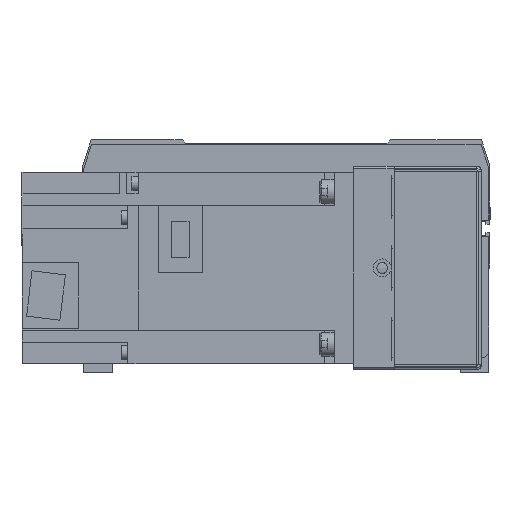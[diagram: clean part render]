
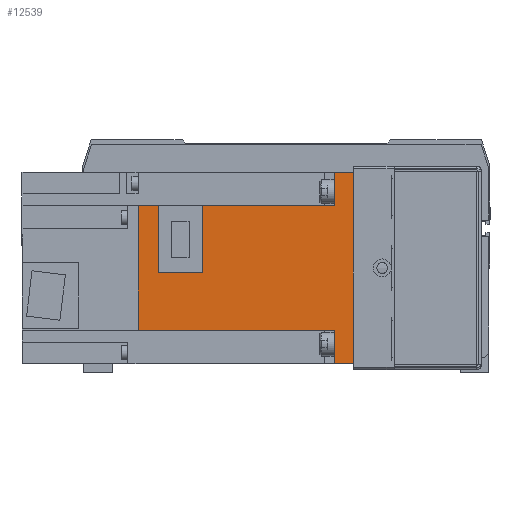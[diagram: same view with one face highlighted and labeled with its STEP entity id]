
A CAD part, front view. The second image highlights one B-rep face of the part: STEP entity #12539.
In plain terms, the highlighted planar face has unit normal (0, -1, 0) as drawn and (1, 0, 0) by its records, which use the part's own axes.
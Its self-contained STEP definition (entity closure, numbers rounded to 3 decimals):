
#831 = DIRECTION ( 'NONE',  ( 0., 1., 0. ) ) ;
#1056 = DIRECTION ( 'NONE',  ( 0., 0., -1. ) ) ;
#1304 = DIRECTION ( 'NONE',  ( 0., 0., -1. ) ) ;
#1412 = LINE ( 'NONE', #35765, #17713 ) ;
#2059 = EDGE_CURVE ( 'NONE', #36756, #5553, #34588, .T. ) ;
#2310 = DIRECTION ( 'NONE',  ( 0., 1., 0. ) ) ;
#2379 = VERTEX_POINT ( 'NONE', #5886 ) ;
#3237 = PLANE ( 'NONE',  #21723 ) ;
#3825 = EDGE_CURVE ( 'NONE', #30230, #6922, #16591, .T. ) ;
#4787 = VECTOR ( 'NONE', #18761, 1000. ) ;
#4788 = VERTEX_POINT ( 'NONE', #36243 ) ;
#5023 = ORIENTED_EDGE ( 'NONE', *, *, #3825, .F. ) ;
#5087 = ORIENTED_EDGE ( 'NONE', *, *, #34616, .T. ) ;
#5553 = VERTEX_POINT ( 'NONE', #37613 ) ;
#5886 = CARTESIAN_POINT ( 'NONE',  ( 40., 0., 40. ) ) ;
#6321 = CARTESIAN_POINT ( 'NONE',  ( 40., 89.8, 40. ) ) ;
#6922 = VERTEX_POINT ( 'NONE', #8034 ) ;
#7518 = ORIENTED_EDGE ( 'NONE', *, *, #38479, .F. ) ;
#7754 = FACE_OUTER_BOUND ( 'NONE', #28412, .T. ) ;
#7798 = DIRECTION ( 'NONE',  ( 0., 0., -1. ) ) ;
#7975 = ORIENTED_EDGE ( 'NONE', *, *, #13541, .F. ) ;
#8034 = CARTESIAN_POINT ( 'NONE',  ( 40., 81.4, 1.8 ) ) ;
#8799 = CARTESIAN_POINT ( 'NONE',  ( 40., 8., 25.95 ) ) ;
#9280 = VECTOR ( 'NONE', #20649, 1000. ) ;
#9294 = ORIENTED_EDGE ( 'NONE', *, *, #28937, .F. ) ;
#9508 = DIRECTION ( 'NONE',  ( 0., 0., 1. ) ) ;
#9573 = LINE ( 'NONE', #36970, #4787 ) ;
#10121 = CARTESIAN_POINT ( 'NONE',  ( 40., 8., 40. ) ) ;
#11929 = VECTOR ( 'NONE', #16275, 1000. ) ;
#12269 = VERTEX_POINT ( 'NONE', #14251 ) ;
#12539 = ADVANCED_FACE ( 'NONE', ( #7754 ), #3237, .F. ) ;
#13014 = VERTEX_POINT ( 'NONE', #33946 ) ;
#13541 = EDGE_CURVE ( 'NONE', #14576, #30230, #9573, .T. ) ;
#14110 = EDGE_CURVE ( 'NONE', #2379, #13014, #29130, .T. ) ;
#14251 = CARTESIAN_POINT ( 'NONE',  ( 40., 89.8, 25.95 ) ) ;
#14576 = VERTEX_POINT ( 'NONE', #21959 ) ;
#15605 = ORIENTED_EDGE ( 'NONE', *, *, #14110, .F. ) ;
#16275 = DIRECTION ( 'NONE',  ( 0., 1., 0. ) ) ;
#16372 = LINE ( 'NONE', #39114, #22105 ) ;
#16591 = LINE ( 'NONE', #28258, #29896 ) ;
#17606 = CARTESIAN_POINT ( 'NONE',  ( 40., 89.8, 25.95 ) ) ;
#17713 = VECTOR ( 'NONE', #7798, 1000. ) ;
#17781 = LINE ( 'NONE', #25681, #23468 ) ;
#18251 = EDGE_CURVE ( 'NONE', #13014, #26956, #38528, .T. ) ;
#18535 = VECTOR ( 'NONE', #31467, 1000. ) ;
#18761 = DIRECTION ( 'NONE',  ( 0., -1., 0. ) ) ;
#19328 = CARTESIAN_POINT ( 'NONE',  ( 40., 89.8, -40. ) ) ;
#19388 = LINE ( 'NONE', #38850, #9280 ) ;
#20290 = EDGE_CURVE ( 'NONE', #12269, #14576, #19388, .T. ) ;
#20649 = DIRECTION ( 'NONE',  ( 0., 0., -1. ) ) ;
#21723 = AXIS2_PLACEMENT_3D ( 'NONE', #6321, #30727, #9508 ) ;
#21875 = CARTESIAN_POINT ( 'NONE',  ( 40., 89.8, 40. ) ) ;
#21959 = CARTESIAN_POINT ( 'NONE',  ( 40., 89.8, -25.95 ) ) ;
#22105 = VECTOR ( 'NONE', #27281, 1000. ) ;
#22730 = VECTOR ( 'NONE', #831, 1000. ) ;
#23468 = VECTOR ( 'NONE', #1056, 1000. ) ;
#25321 = DIRECTION ( 'NONE',  ( 0., -1., 0. ) ) ;
#25681 = CARTESIAN_POINT ( 'NONE',  ( 40., 8., 40. ) ) ;
#26417 = VECTOR ( 'NONE', #25321, 1000. ) ;
#26956 = VERTEX_POINT ( 'NONE', #8799 ) ;
#26967 = ORIENTED_EDGE ( 'NONE', *, *, #33366, .F. ) ;
#27281 = DIRECTION ( 'NONE',  ( 0., -1., 0. ) ) ;
#27488 = CARTESIAN_POINT ( 'NONE',  ( 40., 62.8, 1.8 ) ) ;
#28258 = CARTESIAN_POINT ( 'NONE',  ( 40., 81.4, 40. ) ) ;
#28412 = EDGE_LOOP ( 'NONE', ( #7975, #38870, #35835, #35596, #15605, #5087, #37206, #26967, #34361, #9294, #7518, #5023 ) ) ;
#28450 = CARTESIAN_POINT ( 'NONE',  ( 40., 62.8, 40. ) ) ;
#28839 = LINE ( 'NONE', #37802, #26417 ) ;
#28868 = CARTESIAN_POINT ( 'NONE',  ( 40., 8., -25.95 ) ) ;
#28937 = EDGE_CURVE ( 'NONE', #37857, #4788, #39500, .T. ) ;
#29130 = LINE ( 'NONE', #21875, #11929 ) ;
#29896 = VECTOR ( 'NONE', #34589, 1000. ) ;
#30230 = VERTEX_POINT ( 'NONE', #35403 ) ;
#30235 = EDGE_CURVE ( 'NONE', #26956, #12269, #31798, .T. ) ;
#30727 = DIRECTION ( 'NONE',  ( -1., 0., 0. ) ) ;
#31401 = VECTOR ( 'NONE', #1304, 1000. ) ;
#31467 = DIRECTION ( 'NONE',  ( 0., 0., -1. ) ) ;
#31798 = LINE ( 'NONE', #17606, #38497 ) ;
#33127 = EDGE_CURVE ( 'NONE', #4788, #33407, #16372, .T. ) ;
#33366 = EDGE_CURVE ( 'NONE', #33407, #5553, #17781, .T. ) ;
#33407 = VERTEX_POINT ( 'NONE', #28868 ) ;
#33946 = CARTESIAN_POINT ( 'NONE',  ( 40., 8., 40. ) ) ;
#34361 = ORIENTED_EDGE ( 'NONE', *, *, #33127, .F. ) ;
#34588 = LINE ( 'NONE', #19328, #22730 ) ;
#34589 = DIRECTION ( 'NONE',  ( 0., 0., 1. ) ) ;
#34616 = EDGE_CURVE ( 'NONE', #2379, #36756, #1412, .T. ) ;
#35403 = CARTESIAN_POINT ( 'NONE',  ( 40., 81.4, -25.95 ) ) ;
#35596 = ORIENTED_EDGE ( 'NONE', *, *, #18251, .F. ) ;
#35765 = CARTESIAN_POINT ( 'NONE',  ( 40., 0., 0. ) ) ;
#35835 = ORIENTED_EDGE ( 'NONE', *, *, #30235, .F. ) ;
#36243 = CARTESIAN_POINT ( 'NONE',  ( 40., 62.8, -25.95 ) ) ;
#36597 = CARTESIAN_POINT ( 'NONE',  ( 40., 0., -40. ) ) ;
#36756 = VERTEX_POINT ( 'NONE', #36597 ) ;
#36970 = CARTESIAN_POINT ( 'NONE',  ( 40., 89.8, -25.95 ) ) ;
#37206 = ORIENTED_EDGE ( 'NONE', *, *, #2059, .T. ) ;
#37613 = CARTESIAN_POINT ( 'NONE',  ( 40., 8., -40. ) ) ;
#37802 = CARTESIAN_POINT ( 'NONE',  ( 40., 89.8, 1.8 ) ) ;
#37857 = VERTEX_POINT ( 'NONE', #27488 ) ;
#38479 = EDGE_CURVE ( 'NONE', #6922, #37857, #28839, .T. ) ;
#38497 = VECTOR ( 'NONE', #2310, 1000. ) ;
#38528 = LINE ( 'NONE', #10121, #18535 ) ;
#38850 = CARTESIAN_POINT ( 'NONE',  ( 40., 89.8, 40. ) ) ;
#38870 = ORIENTED_EDGE ( 'NONE', *, *, #20290, .F. ) ;
#39114 = CARTESIAN_POINT ( 'NONE',  ( 40., 89.8, -25.95 ) ) ;
#39500 = LINE ( 'NONE', #28450, #31401 ) ;
